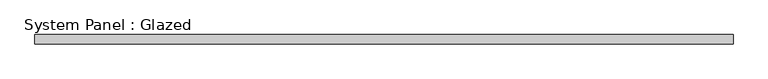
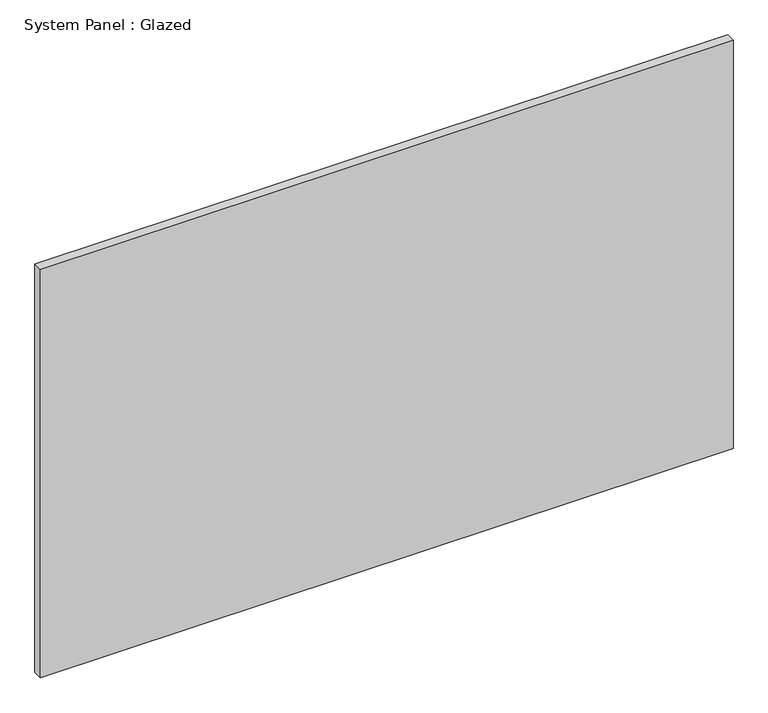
"""IFC4 building model written with IfcOpenShell, lengths in millimetres: plate geometry, System Panel : Glazed."""

from ifc_helpers import new_model, si_unit, origin, origin_with_axes, place, context, project, spatial, polyline, outline, extrude, source, transform, mapped, element, save


def system_panel_glazed_acb8865d(model_context):
    return source(origin(), model_context, "Body", "SweptSolid", [
        extrude(outline(polyline([(927.1, -44.45), (-927.1, -44.45), (-927.1, -19.05), (927.1, -19.05), (927.1, -44.45)])), origin_with_axes(), (0.0, 0.0, 1.0), 1155.7),
    ])


if __name__ == "__main__":
    model = new_model("IFC4")
    model_context = context("Model", 3, world=origin())
    ifc_project = project(units=[si_unit("LENGTHUNIT", "METRE", prefix="MILLI")], contexts=[model_context])
    site = spatial("IfcSite", under=ifc_project)
    building = spatial("IfcBuilding", under=site)
    placement = place(None, origin())
    system_panel_glazed_shape = system_panel_glazed_acb8865d(model_context)
    element("IfcPlate", 1, ObjectType="System Panel : Glazed", at=placement, inside=building, context=model_context, shape_type="MappedRepresentation", body=[
        mapped(system_panel_glazed_shape, transform((0.0, 0.0, 0.0), x_axis=(1.0, 0.0, 0.0), y_axis=(0.0, 1.0, 0.0), z_axis=(0.0, 0.0, 1.0))),
    ])
    save(model, "model.ifc")
